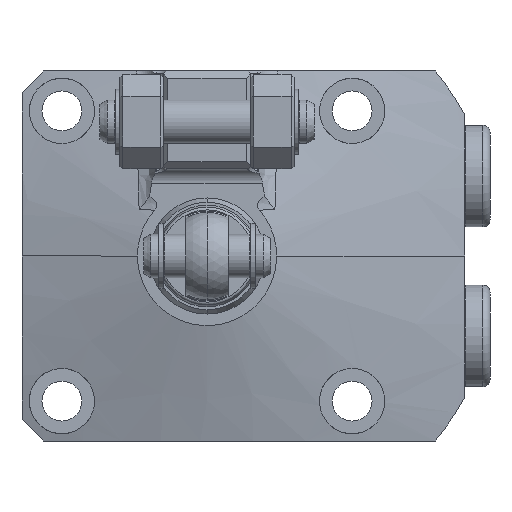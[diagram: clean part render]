
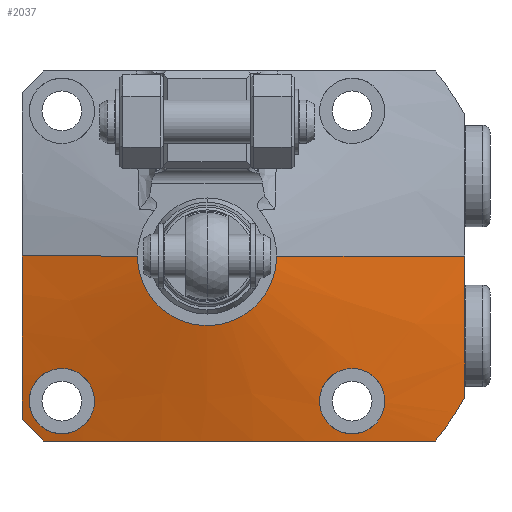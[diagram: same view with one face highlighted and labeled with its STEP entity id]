
A CAD part, left-side view. The second image highlights one B-rep face of the part: STEP entity #2037.
In plain terms, the highlighted conical face has half-angle 75 degrees and reference radius 4 mm.
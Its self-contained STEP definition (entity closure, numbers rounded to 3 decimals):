
#1388=B_SPLINE_CURVE_WITH_KNOTS('',3,(#10893,#10894,#10895,#10896,#10897,
#10898,#10899,#10900,#10901,#10902),.UNSPECIFIED.,.F.,.F.,(4,2,2,2,4),(0.,
0.25,0.5,0.75,1.),.UNSPECIFIED.);
#1391=B_SPLINE_CURVE_WITH_KNOTS('',3,(#10947,#10948,#10949,#10950,#10951,
#10952,#10953,#10954,#10955,#10956),.UNSPECIFIED.,.F.,.F.,(4,2,2,2,4),(0.,
0.25,0.5,0.75,1.),.UNSPECIFIED.);
#1397=B_SPLINE_CURVE_WITH_KNOTS('',3,(#11238,#11239,#11240,#11241),
 .UNSPECIFIED.,.F.,.F.,(4,4),(0.,1.),.UNSPECIFIED.);
#1398=B_SPLINE_CURVE_WITH_KNOTS('',3,(#11243,#11244,#11245,#11246),
 .UNSPECIFIED.,.F.,.F.,(4,4),(0.,1.),.UNSPECIFIED.);
#1399=B_SPLINE_CURVE_WITH_KNOTS('',3,(#11248,#11249,#11250,#11251,#11252,
#11253,#11254,#11255),.UNSPECIFIED.,.F.,.F.,(4,2,2,4),(0.,0.5,0.75,1.),
 .UNSPECIFIED.);
#1400=B_SPLINE_CURVE_WITH_KNOTS('',3,(#11259,#11260,#11261,#11262),
 .UNSPECIFIED.,.F.,.F.,(4,4),(0.,1.),.UNSPECIFIED.);
#1401=B_SPLINE_CURVE_WITH_KNOTS('',3,(#11263,#11264,#11265,#11266,#11267,
#11268,#11269,#11270,#11271,#11272),.UNSPECIFIED.,.F.,.F.,(4,2,2,2,4),(0.,
0.25,0.5,0.75,1.),.UNSPECIFIED.);
#1402=B_SPLINE_CURVE_WITH_KNOTS('',3,(#11273,#11274,#11275,#11276,#11277,
#11278,#11279,#11280,#11281,#11282),.UNSPECIFIED.,.F.,.F.,(4,2,2,2,4),(0.,
0.25,0.5,0.75,1.),.UNSPECIFIED.);
#1465=FACE_BOUND('',#2921,.T.);
#1466=FACE_BOUND('',#2922,.T.);
#1467=FACE_BOUND('',#2923,.T.);
#1562=CONICAL_SURFACE('',#7756,4.,75.);
#2037=ADVANCED_FACE('',(#1465,#1466,#1467),#1562,.T.);
#2921=EDGE_LOOP('',(#4461,#4462,#4463,#4464,#4465,#4466,#4467,#4468));
#2922=EDGE_LOOP('',(#4469,#4470));
#2923=EDGE_LOOP('',(#4471,#4472));
#3354=LINE('',#11186,#3679);
#3355=LINE('',#11236,#3680);
#3679=VECTOR('',#9084,1.);
#3680=VECTOR('',#9091,1.);
#4461=ORIENTED_EDGE('',*,*,#6443,.F.);
#4462=ORIENTED_EDGE('',*,*,#6449,.T.);
#4463=ORIENTED_EDGE('',*,*,#6450,.T.);
#4464=ORIENTED_EDGE('',*,*,#6451,.F.);
#4465=ORIENTED_EDGE('',*,*,#6452,.F.);
#4466=ORIENTED_EDGE('',*,*,#6453,.F.);
#4467=ORIENTED_EDGE('',*,*,#6454,.T.);
#4468=ORIENTED_EDGE('',*,*,#6455,.T.);
#4469=ORIENTED_EDGE('',*,*,#6336,.T.);
#4470=ORIENTED_EDGE('',*,*,#6456,.T.);
#4471=ORIENTED_EDGE('',*,*,#6324,.T.);
#4472=ORIENTED_EDGE('',*,*,#6457,.T.);
#5723=VERTEX_POINT('',#10892);
#5724=VERTEX_POINT('',#10903);
#5735=VERTEX_POINT('',#10946);
#5736=VERTEX_POINT('',#10957);
#5820=VERTEX_POINT('',#11185);
#5821=VERTEX_POINT('',#11187);
#5826=VERTEX_POINT('',#11235);
#5827=VERTEX_POINT('',#11237);
#5828=VERTEX_POINT('',#11242);
#5829=VERTEX_POINT('',#11247);
#5830=VERTEX_POINT('',#11256);
#5831=VERTEX_POINT('',#11258);
#6324=EDGE_CURVE('',#5724,#5723,#1388,.T.);
#6336=EDGE_CURVE('',#5736,#5735,#1391,.T.);
#6443=EDGE_CURVE('',#5820,#5821,#3354,.T.);
#6449=EDGE_CURVE('',#5820,#5826,#7161,.T.);
#6450=EDGE_CURVE('',#5826,#5827,#3355,.T.);
#6451=EDGE_CURVE('',#5828,#5827,#1397,.T.);
#6452=EDGE_CURVE('',#5829,#5828,#1398,.T.);
#6453=EDGE_CURVE('',#5830,#5829,#1399,.T.);
#6454=EDGE_CURVE('',#5830,#5831,#7162,.T.);
#6455=EDGE_CURVE('',#5831,#5821,#1400,.T.);
#6456=EDGE_CURVE('',#5735,#5736,#1401,.T.);
#6457=EDGE_CURVE('',#5723,#5724,#1402,.T.);
#7161=CIRCLE('',#7754,9.598);
#7162=CIRCLE('',#7755,40.5);
#7754=AXIS2_PLACEMENT_3D('',#11234,#9089,#9090);
#7755=AXIS2_PLACEMENT_3D('',#11257,#9092,#9093);
#7756=AXIS2_PLACEMENT_3D('',#11283,#9094,#9095);
#9084=DIRECTION('',(0.259,-0.966,0.));
#9089=DIRECTION('',(1.,0.,0.));
#9090=DIRECTION('',(0.,0.,1.));
#9091=DIRECTION('',(0.259,0.966,0.));
#9092=DIRECTION('',(-1.,0.,0.));
#9093=DIRECTION('',(0.,0.,-1.));
#9094=DIRECTION('',(1.,0.,0.));
#9095=DIRECTION('',(0.,1.,0.));
#10892=CARTESIAN_POINT('',(-22.097,-20.,-24.5));
#10893=CARTESIAN_POINT('',(-23.792,-20.,-15.5));
#10894=CARTESIAN_POINT('',(-23.541,-21.183,-15.5));
#10895=CARTESIAN_POINT('',(-23.218,-22.32,-15.974));
#10896=CARTESIAN_POINT('',(-22.605,-23.973,-17.591));
#10897=CARTESIAN_POINT('',(-22.315,-24.477,-18.741));
#10898=CARTESIAN_POINT('',(-21.909,-24.522,-21.088));
#10899=CARTESIAN_POINT('',(-21.79,-24.054,-22.291));
#10900=CARTESIAN_POINT('',(-21.784,-22.377,-24.005));
#10901=CARTESIAN_POINT('',(-21.895,-21.193,-24.5));
#10902=CARTESIAN_POINT('',(-22.097,-20.,-24.5));
#10903=CARTESIAN_POINT('',(-23.792,-20.,-15.5));
#10946=CARTESIAN_POINT('',(-22.097,20.,-24.5));
#10947=CARTESIAN_POINT('',(-23.792,20.,-15.5));
#10948=CARTESIAN_POINT('',(-24.043,18.815,-15.5));
#10949=CARTESIAN_POINT('',(-24.202,17.631,-15.992));
#10950=CARTESIAN_POINT('',(-24.196,15.955,-17.694));
#10951=CARTESIAN_POINT('',(-24.03,15.483,-18.892));
#10952=CARTESIAN_POINT('',(-23.525,15.518,-21.244));
#10953=CARTESIAN_POINT('',(-23.198,16.009,-22.382));
#10954=CARTESIAN_POINT('',(-22.584,17.661,-24.016));
#10955=CARTESIAN_POINT('',(-22.3,18.806,-24.5));
#10956=CARTESIAN_POINT('',(-22.097,20.,-24.5));
#10957=CARTESIAN_POINT('',(-23.792,20.,-15.5));
#11185=CARTESIAN_POINT('',(-28.,-9.598,0.));
#11186=CARTESIAN_POINT('',(-29.5,-4.,0.));
#11187=CARTESIAN_POINT('',(-21.06,-35.5,0.));
#11234=CARTESIAN_POINT('',(-28.,0.,0.));
#11235=CARTESIAN_POINT('',(-28.,9.598,0.));
#11236=CARTESIAN_POINT('',(-29.5,4.,0.));
#11237=CARTESIAN_POINT('',(-23.739,25.5,0.));
#11238=CARTESIAN_POINT('',(-21.46,25.5,-22.5));
#11239=CARTESIAN_POINT('',(-22.779,25.5,-15.057));
#11240=CARTESIAN_POINT('',(-23.739,25.5,-7.577));
#11241=CARTESIAN_POINT('',(-23.739,25.5,0.));
#11242=CARTESIAN_POINT('',(-21.46,25.5,-22.5));
#11243=CARTESIAN_POINT('',(-21.46,22.5,-25.5));
#11244=CARTESIAN_POINT('',(-21.483,23.5,-24.5));
#11245=CARTESIAN_POINT('',(-21.483,24.5,-23.5));
#11246=CARTESIAN_POINT('',(-21.46,25.5,-22.5));
#11247=CARTESIAN_POINT('',(-21.46,22.5,-25.5));
#11248=CARTESIAN_POINT('',(-19.72,-31.464,-25.5));
#11249=CARTESIAN_POINT('',(-21.569,-22.582,-25.5));
#11250=CARTESIAN_POINT('',(-23.19,-13.681,-25.5));
#11251=CARTESIAN_POINT('',(-23.843,-0.177,-25.5));
#11252=CARTESIAN_POINT('',(-23.737,4.352,-25.5));
#11253=CARTESIAN_POINT('',(-22.932,13.461,-25.5));
#11254=CARTESIAN_POINT('',(-22.259,17.993,-25.5));
#11255=CARTESIAN_POINT('',(-21.46,22.5,-25.5));
#11256=CARTESIAN_POINT('',(-19.72,-31.464,-25.5));
#11257=CARTESIAN_POINT('',(-19.72,0.,0.));
#11258=CARTESIAN_POINT('',(-19.72,-35.5,-19.494));
#11259=CARTESIAN_POINT('',(-19.72,-35.5,-19.494));
#11260=CARTESIAN_POINT('',(-20.554,-35.5,-13.022));
#11261=CARTESIAN_POINT('',(-21.06,-35.5,-6.529));
#11262=CARTESIAN_POINT('',(-21.06,-35.5,0.));
#11263=CARTESIAN_POINT('',(-22.097,20.,-24.5));
#11264=CARTESIAN_POINT('',(-21.895,21.192,-24.5));
#11265=CARTESIAN_POINT('',(-21.785,22.376,-24.004));
#11266=CARTESIAN_POINT('',(-21.79,24.047,-22.301));
#11267=CARTESIAN_POINT('',(-21.907,24.52,-21.101));
#11268=CARTESIAN_POINT('',(-22.315,24.478,-18.739));
#11269=CARTESIAN_POINT('',(-22.603,23.976,-17.594));
#11270=CARTESIAN_POINT('',(-23.219,22.317,-15.971));
#11271=CARTESIAN_POINT('',(-23.541,21.182,-15.5));
#11272=CARTESIAN_POINT('',(-23.792,20.,-15.5));
#11273=CARTESIAN_POINT('',(-22.097,-20.,-24.5));
#11274=CARTESIAN_POINT('',(-22.3,-18.806,-24.5));
#11275=CARTESIAN_POINT('',(-22.585,-17.658,-24.013));
#11276=CARTESIAN_POINT('',(-23.197,-16.012,-22.385));
#11277=CARTESIAN_POINT('',(-23.526,-15.52,-21.239));
#11278=CARTESIAN_POINT('',(-24.027,-15.482,-18.907));
#11279=CARTESIAN_POINT('',(-24.195,-15.946,-17.706));
#11280=CARTESIAN_POINT('',(-24.202,-17.63,-15.991));
#11281=CARTESIAN_POINT('',(-24.043,-18.815,-15.5));
#11282=CARTESIAN_POINT('',(-23.792,-20.,-15.5));
#11283=CARTESIAN_POINT('',(-29.5,0.,0.));
